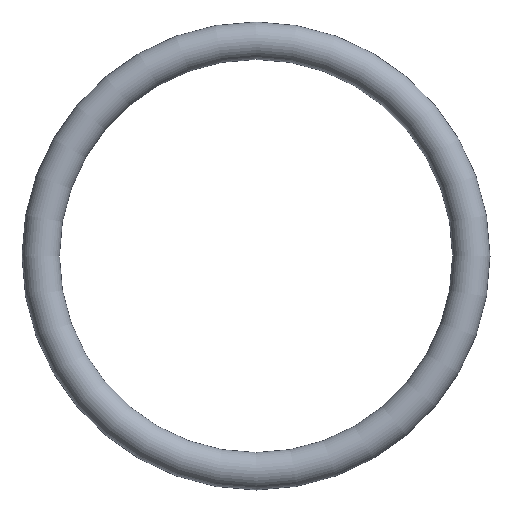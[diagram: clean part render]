
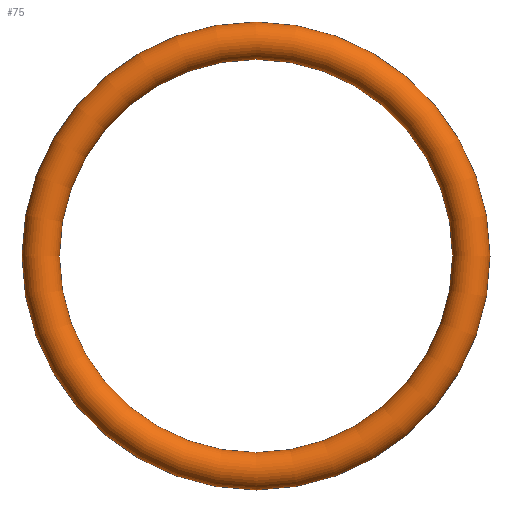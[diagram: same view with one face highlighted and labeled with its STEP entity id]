
A CAD part, front view. The second image highlights one B-rep face of the part: STEP entity #75.
In plain terms, the highlighted toroidal (fillet/blend) face has major radius 11.5 mm and minor radius 1 mm.
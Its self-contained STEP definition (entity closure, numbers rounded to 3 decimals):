
#75 = ADVANCED_FACE( '', ( #77 ), #78, .T. );
#77 = FACE_BOUND( '', #79, .T. );
#78 = TOROIDAL_SURFACE( '', #80, 11.5, 1. );
#79 = VERTEX_LOOP( '', #81 );
#80 = AXIS2_PLACEMENT_3D( '', #82, #83, #84 );
#81 = VERTEX_POINT( '', #85 );
#82 = CARTESIAN_POINT( '', ( 0., 0., 0. ) );
#83 = DIRECTION( '', ( 0., -1., 0. ) );
#84 = DIRECTION( '', ( 0., 0., -1. ) );
#85 = CARTESIAN_POINT( '', ( 0., 0., -12.5 ) );
